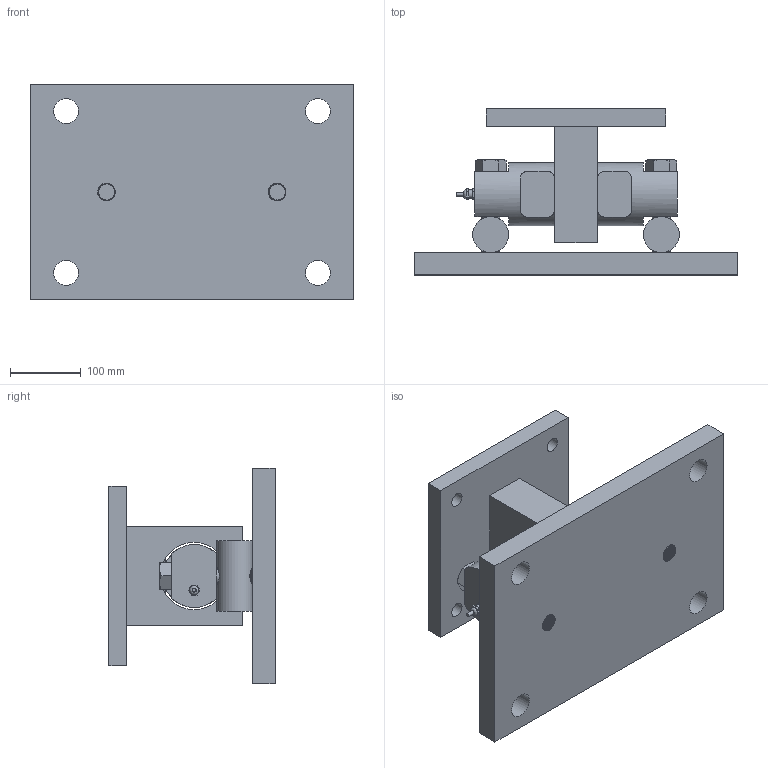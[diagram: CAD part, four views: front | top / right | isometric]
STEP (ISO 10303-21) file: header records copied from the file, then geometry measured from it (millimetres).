
FILE_DESCRIPTION(/* description */ (''),/* implementation_level */ '2;1');
FILE_NAME(/* name */ 'C:/Users/fardi/Dropbox/Work/Anyload/Load Cell Models/Product Catalog 3D/Weight Modules/102/102DHM3/102DHM3-100klb v3.step',/* time_stamp */ '2020-04-14T14:30:48-07:00',/* author */ (''),/* organization */ (''),/* preprocessor_version */ 'ST-DEVELOPER v18.1',/* originating_system */ 'Autodesk Translation Framework v9.2.0.1227',/* authorisation */ '');
FILE_SCHEMA (('AUTOMOTIVE_DESIGN { 1 0 10303 214 3 1 1 }'));
Length unit declared in the file: millimetre
Products named in the file (7): 102DHM3-100klb; Base; Support; 102DH-100klb; Connector; 91257A990; Top
Assembly tree (7 placements, depth 3):
  102DHM3-100klb
    Base
    Support
    102DH-100klb
      Connector
    91257A990  x2
    Top
Bounding box: 457.2 x 234.95 x 304.8 mm (x, y, z)
Volume: 8789925.1 mm3; surface area: 755322.6 mm2
Topology: 8 solids, 8 shells, 425 faces, 1133 edges, 748 vertices
Faces by surface type: cylinder 272, plane 124, cone 19, bspline 9, torus 1
Full cylindrical faces by diameter (mm): 5.1 x1, 10 x1, 12 x2, 13 x1, 20.6 x4, 23.043 x60, 23.635 x36, 25.4 x98, 26.2 x2, 26.924 x2, 35.1 x4, 50.8 x2, 88.9 x2, 95.3 x1
Entity records: 24171 total; most frequent: CARTESIAN_POINT 16809, ORIENTED_EDGE 1644, DIRECTION 1266, EDGE_CURVE 822, VERTEX_POINT 543, AXIS2_PLACEMENT_3D 448, LINE 370, VECTOR 370
